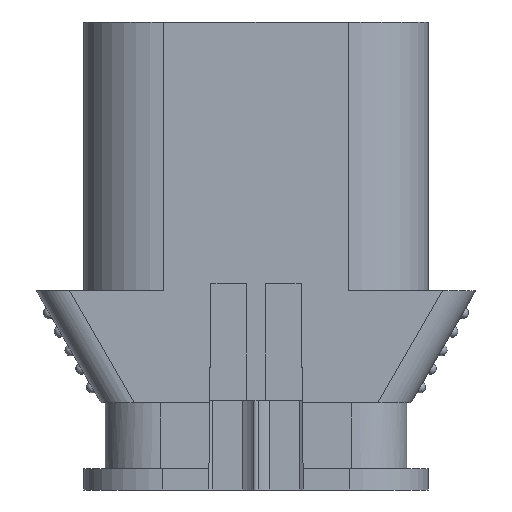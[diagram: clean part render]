
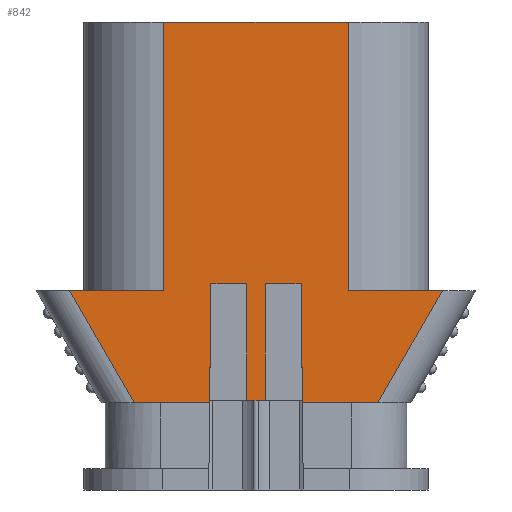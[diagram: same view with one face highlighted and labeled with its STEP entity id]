
A CAD part, front view. The second image highlights one B-rep face of the part: STEP entity #842.
In plain terms, the highlighted planar face has unit normal (0, -1, 0).
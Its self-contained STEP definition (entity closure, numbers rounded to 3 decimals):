
#842=ADVANCED_FACE('',(#1767),#1360,.T.);
#1360=PLANE('',#10899);
#1767=FACE_OUTER_BOUND('',#2328,.T.);
#2328=EDGE_LOOP('',(#3743,#3744,#3745,#3746,#3747,#3748,#3749,#3750,#3751,
#3752,#3753,#3754,#3755,#3756,#3757,#3758));
#3743=ORIENTED_EDGE('',*,*,#7270,.T.);
#3744=ORIENTED_EDGE('',*,*,#7244,.T.);
#3745=ORIENTED_EDGE('',*,*,#7535,.T.);
#3746=ORIENTED_EDGE('',*,*,#7536,.T.);
#3747=ORIENTED_EDGE('',*,*,#7229,.F.);
#3748=ORIENTED_EDGE('',*,*,#7172,.T.);
#3749=ORIENTED_EDGE('',*,*,#7252,.T.);
#3750=ORIENTED_EDGE('',*,*,#7537,.F.);
#3751=ORIENTED_EDGE('',*,*,#7182,.T.);
#3752=ORIENTED_EDGE('',*,*,#7538,.T.);
#3753=ORIENTED_EDGE('',*,*,#7255,.T.);
#3754=ORIENTED_EDGE('',*,*,#7451,.T.);
#3755=ORIENTED_EDGE('',*,*,#7069,.F.);
#3756=ORIENTED_EDGE('',*,*,#7539,.T.);
#3757=ORIENTED_EDGE('',*,*,#7540,.T.);
#3758=ORIENTED_EDGE('',*,*,#7247,.T.);
#6053=VERTEX_POINT('',#14664);
#6054=VERTEX_POINT('',#14666);
#6142=VERTEX_POINT('',#14877);
#6143=VERTEX_POINT('',#14878);
#6150=VERTEX_POINT('',#14895);
#6151=VERTEX_POINT('',#14897);
#6177=VERTEX_POINT('',#14980);
#6189=VERTEX_POINT('',#15007);
#6190=VERTEX_POINT('',#15009);
#6192=VERTEX_POINT('',#15015);
#6193=VERTEX_POINT('',#15016);
#6197=VERTEX_POINT('',#15025);
#6199=VERTEX_POINT('',#15031);
#6200=VERTEX_POINT('',#15033);
#6383=VERTEX_POINT('',#16013);
#6384=VERTEX_POINT('',#16018);
#7069=EDGE_CURVE('',#6053,#6054,#8559,.T.);
#7172=EDGE_CURVE('',#6142,#6143,#8654,.T.);
#7182=EDGE_CURVE('',#6151,#6150,#8664,.T.);
#7229=EDGE_CURVE('',#6142,#6177,#8710,.T.);
#7244=EDGE_CURVE('',#6190,#6189,#8718,.T.);
#7247=EDGE_CURVE('',#6192,#6193,#8720,.T.);
#7252=EDGE_CURVE('',#6143,#6197,#8723,.T.);
#7255=EDGE_CURVE('',#6200,#6199,#8726,.T.);
#7270=EDGE_CURVE('',#6193,#6190,#8741,.T.);
#7451=EDGE_CURVE('',#6199,#6054,#8828,.T.);
#7535=EDGE_CURVE('',#6189,#6383,#8886,.T.);
#7536=EDGE_CURVE('',#6383,#6177,#8887,.T.);
#7537=EDGE_CURVE('',#6151,#6197,#8888,.T.);
#7538=EDGE_CURVE('',#6150,#6200,#8889,.T.);
#7539=EDGE_CURVE('',#6053,#6384,#8890,.T.);
#7540=EDGE_CURVE('',#6384,#6192,#8891,.T.);
#8559=LINE('',#14665,#9674);
#8654=LINE('',#14876,#9769);
#8664=LINE('',#14896,#9779);
#8710=LINE('',#14979,#9825);
#8718=LINE('',#15008,#9833);
#8720=LINE('',#15014,#9835);
#8723=LINE('',#15026,#9838);
#8726=LINE('',#15032,#9841);
#8741=LINE('',#15060,#9856);
#8828=LINE('',#15797,#9943);
#8886=LINE('',#16012,#10001);
#8887=LINE('',#16014,#10002);
#8888=LINE('',#16015,#10003);
#8889=LINE('',#16016,#10004);
#8890=LINE('',#16017,#10005);
#8891=LINE('',#16019,#10006);
#9674=VECTOR('',#11760,1.);
#9769=VECTOR('',#11895,1.);
#9779=VECTOR('',#11907,1.);
#9825=VECTOR('',#11975,1.);
#9833=VECTOR('',#11999,1.);
#9835=VECTOR('',#12005,1.);
#9838=VECTOR('',#12014,1.);
#9841=VECTOR('',#12019,1.);
#9856=VECTOR('',#12038,1.);
#9943=VECTOR('',#12299,1.);
#10001=VECTOR('',#12485,1.);
#10002=VECTOR('',#12486,1.);
#10003=VECTOR('',#12487,1.);
#10004=VECTOR('',#12488,1.);
#10005=VECTOR('',#12489,1.);
#10006=VECTOR('',#12490,1.);
#10899=AXIS2_PLACEMENT_3D('',#16020,#12491,#12492);
#11760=DIRECTION('',(-1.,0.,0.));
#11895=DIRECTION('',(0.01,0.,1.));
#11907=DIRECTION('',(1.,0.,0.));
#11975=DIRECTION('',(-1.,0.,0.));
#11999=DIRECTION('',(0.,0.,-1.));
#12005=DIRECTION('',(0.,0.,1.));
#12014=DIRECTION('',(1.,0.,0.));
#12019=DIRECTION('',(1.,0.,0.));
#12038=DIRECTION('',(-1.,0.,0.));
#12299=DIRECTION('',(0.01,0.,-1.));
#12485=DIRECTION('',(-1.,0.,0.));
#12486=DIRECTION('',(0.5,0.,-0.866));
#12487=DIRECTION('',(0.,0.,1.));
#12488=DIRECTION('',(0.,0.,1.));
#12489=DIRECTION('',(0.5,0.,0.866));
#12490=DIRECTION('',(-1.,0.,0.));
#12491=DIRECTION('',(0.,-1.,0.));
#12492=DIRECTION('',(-1.,0.,0.));
#14664=CARTESIAN_POINT('',(8.526,-6.05,-26.65));
#14665=CARTESIAN_POINT('',(6.5,-6.05,-26.65));
#14666=CARTESIAN_POINT('',(3.245,-6.05,-26.65));
#14876=CARTESIAN_POINT('',(-3.059,-6.05,-8.844));
#14877=CARTESIAN_POINT('',(-3.245,-6.05,-26.65));
#14878=CARTESIAN_POINT('',(-3.158,-6.05,-18.3));
#14895=CARTESIAN_POINT('',(0.65,-6.05,-26.475));
#14896=CARTESIAN_POINT('',(2.275,-6.05,-26.475));
#14897=CARTESIAN_POINT('',(-0.65,-6.05,-26.475));
#14979=CARTESIAN_POINT('',(6.5,-6.05,-26.65));
#14980=CARTESIAN_POINT('',(-8.526,-6.05,-26.65));
#15007=CARTESIAN_POINT('',(-6.45,-6.05,-18.8));
#15008=CARTESIAN_POINT('',(-6.45,-6.05,-8.9));
#15009=CARTESIAN_POINT('',(-6.45,-6.05,0.));
#15014=CARTESIAN_POINT('',(6.45,-6.05,-8.9));
#15015=CARTESIAN_POINT('',(6.45,-6.05,-18.8));
#15016=CARTESIAN_POINT('',(6.45,-6.05,0.));
#15025=CARTESIAN_POINT('',(-0.65,-6.05,-18.3));
#15026=CARTESIAN_POINT('',(0.,-6.05,-18.3));
#15031=CARTESIAN_POINT('',(3.158,-6.05,-18.3));
#15032=CARTESIAN_POINT('',(0.,-6.05,-18.3));
#15033=CARTESIAN_POINT('',(0.65,-6.05,-18.3));
#15060=CARTESIAN_POINT('',(0.,-6.05,0.));
#15797=CARTESIAN_POINT('',(3.06,-6.05,-8.892));
#16012=CARTESIAN_POINT('',(-14.975,-6.05,-18.8));
#16013=CARTESIAN_POINT('',(-13.058,-6.05,-18.8));
#16014=CARTESIAN_POINT('',(-13.289,-6.05,-18.4));
#16015=CARTESIAN_POINT('',(-0.65,-6.05,-8.9));
#16016=CARTESIAN_POINT('',(0.65,-6.05,-8.9));
#16017=CARTESIAN_POINT('',(13.289,-6.05,-18.4));
#16018=CARTESIAN_POINT('',(13.058,-6.05,-18.8));
#16019=CARTESIAN_POINT('',(14.975,-6.05,-18.8));
#16020=CARTESIAN_POINT('',(2.275,-6.05,-8.9));
